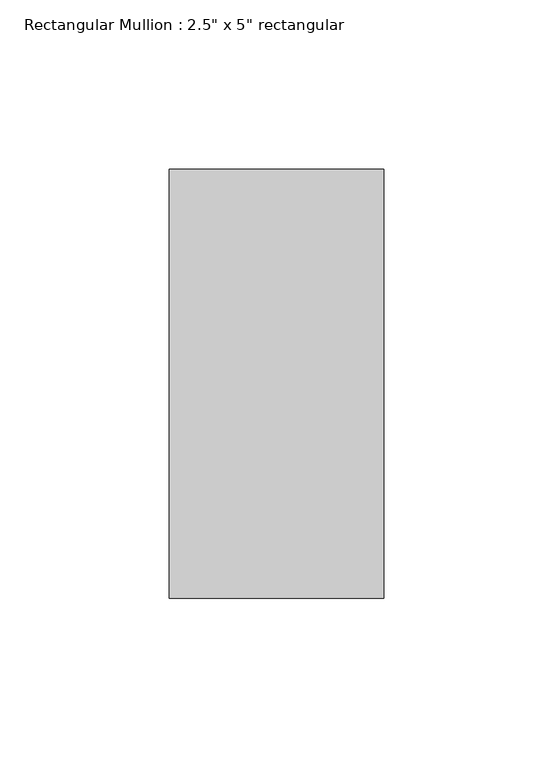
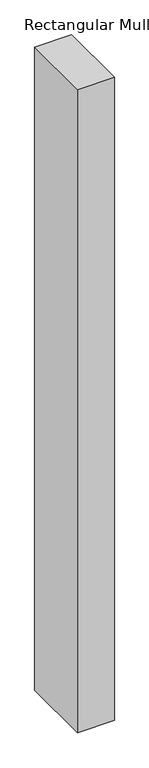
"""IFC4 building model written with IfcOpenShell, lengths in millimetres: member geometry."""

from ifc_helpers import new_model, si_unit, frame, origin, place, context, project, spatial, polyline, outline, extrude, source, transform, mapped, element, save


def member_f4ab5e25(model_context):
    return source(origin(), model_context, "Body", "SweptSolid", [
        extrude(outline(polyline([(0.0, 50.8), (0.0, -76.2), (-63.5, -76.2), (-63.5, 50.8), (0.0, 50.8)])), frame((0.0, 0.0, -1168.4), z_axis=(0.0, 0.0, 1.0), x_axis=(1.0, 0.0, 0.0)), (0.0, 0.0, 1.0), 1168.4),
    ])


if __name__ == "__main__":
    model = new_model("IFC4")
    model_context = context("Model", 3, world=origin())
    ifc_project = project(units=[si_unit("LENGTHUNIT", "METRE", prefix="MILLI")], contexts=[model_context])
    site = spatial("IfcSite", under=ifc_project)
    building = spatial("IfcBuilding", under=site)
    placement = place(None, origin())
    member_shape = member_f4ab5e25(model_context)
    element("IfcMember", 1, ObjectType="Rectangular Mullion : 2.5\" x 5\" rectangular", at=placement, inside=building, context=model_context, shape_type="MappedRepresentation", body=[
        mapped(member_shape, transform((0.0, 0.0, 0.0), x_axis=(1.0, 0.0, 0.0), y_axis=(0.0, 1.0, 0.0), z_axis=(0.0, 0.0, 1.0))),
    ])
    save(model, "model.ifc")
